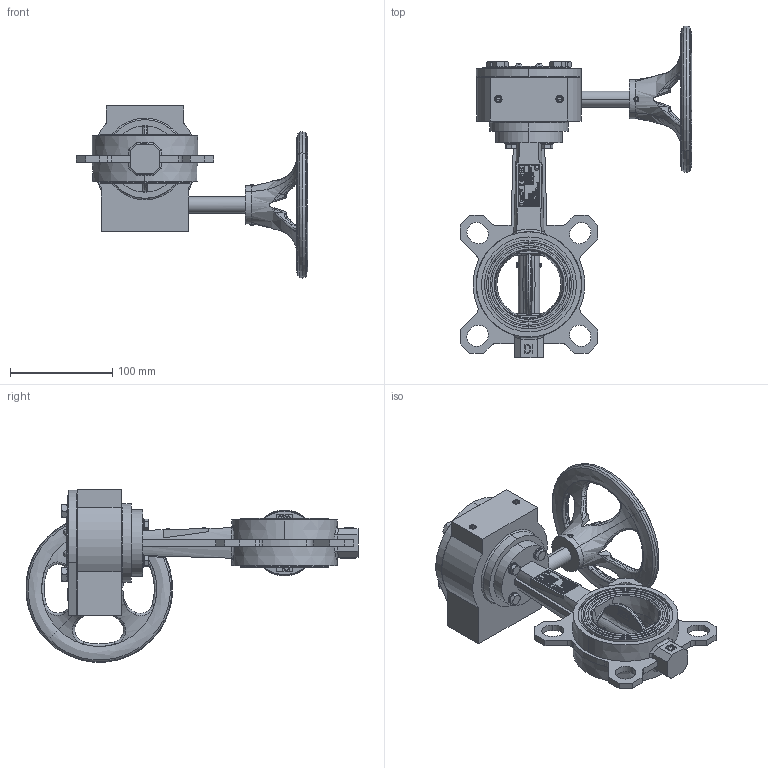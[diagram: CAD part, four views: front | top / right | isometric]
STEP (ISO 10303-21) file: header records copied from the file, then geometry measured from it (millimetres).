
FILE_DESCRIPTION (( 'STEP AP214' ), '1' );
FILE_NAME ('VPG444X-08XX0065.step', '2022-06-30T08:25:38', ( '' ), ( '' ), 'SwSTEP 2.0', 'SolidWorks 2020', '' );
FILE_SCHEMA (( 'AUTOMOTIVE_DESIGN' ));
Length unit declared in the file: millimetre
Products named in the file (1): VPG444X-08XX0065
Bounding box: 226.74 x 325.23 x 168.73 mm (x, y, z)
Surface area: 181441.3 mm2 (no closed solid volume)
Topology: 0 solids, 67 shells, 949 faces, 6458 edges, 5446 vertices
Faces by surface type: plane 536, bspline 189, cylinder 136, cone 84, torus 4
Entity records: 94939 total; most frequent: CARTESIAN_POINT 40572, ORIENTED_EDGE 8430, DIRECTION 7109, EDGE_CURVE 6440, VERTEX_POINT 5446, VECTOR 4219, LINE 4219, B_SPLINE_CURVE_WITH_KNOTS 1463
